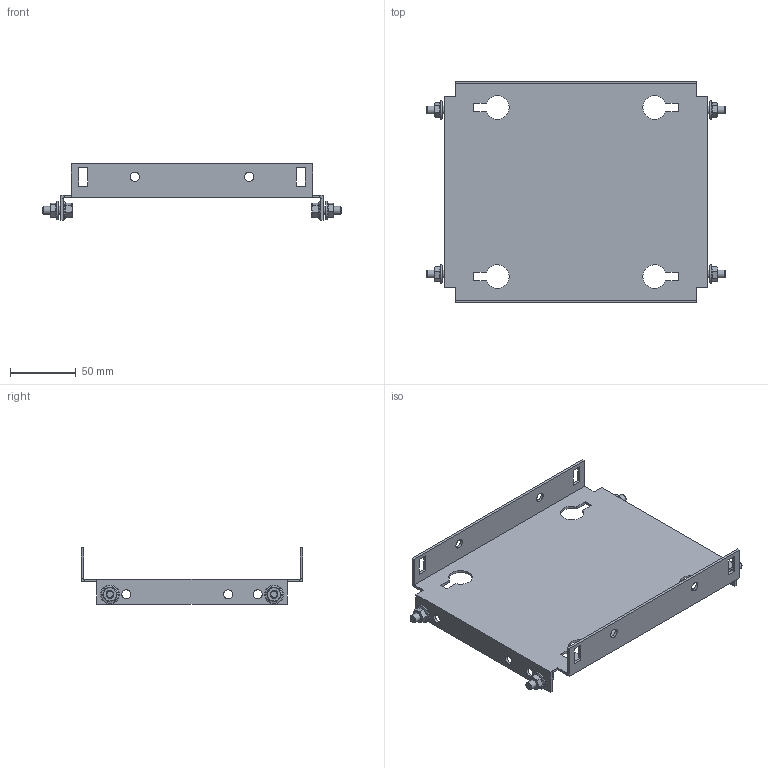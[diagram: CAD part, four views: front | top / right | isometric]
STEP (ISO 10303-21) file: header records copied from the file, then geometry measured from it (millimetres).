
FILE_DESCRIPTION(('Open CASCADE Model'),'2;1');
FILE_NAME('Open CASCADE Shape Model','2025-02-20T13:24:46',('Author'),( 'Open CASCADE'),'Open CASCADE STEP processor 7.8','Open CASCADE 7.8' ,'Unknown');
FILE_SCHEMA(('AUTOMOTIVE_DESIGN { 1 0 10303 214 1 1 1 1 }'));
Length unit declared in the file: millimetre
Products named in the file (4): Compound1; Solid1; Solid2; Solid3
Assembly tree (9 placements, depth 2):
  Compound1
    Solid1
    Solid2  x4
    Solid3  x4
Bounding box: 228 x 169 x 43 mm (x, y, z)
Volume: 96349.8 mm3; surface area: 98739.8 mm2
Topology: 9 solids, 9 shells, 308 faces, 753 edges, 467 vertices
Faces by surface type: plane 150, cone 68, bspline 48, cylinder 30, torus 12
Full cylindrical faces by diameter (mm): 5 x4, 6 x8, 7 x14
Entity records: 4930 total; most frequent: CARTESIAN_POINT 1377, ORIENTED_EDGE 756, DIRECTION 642, EDGE_CURVE 378, VERTEX_POINT 245, LINE 216, VECTOR 216, AXIS2_PLACEMENT_3D 213
